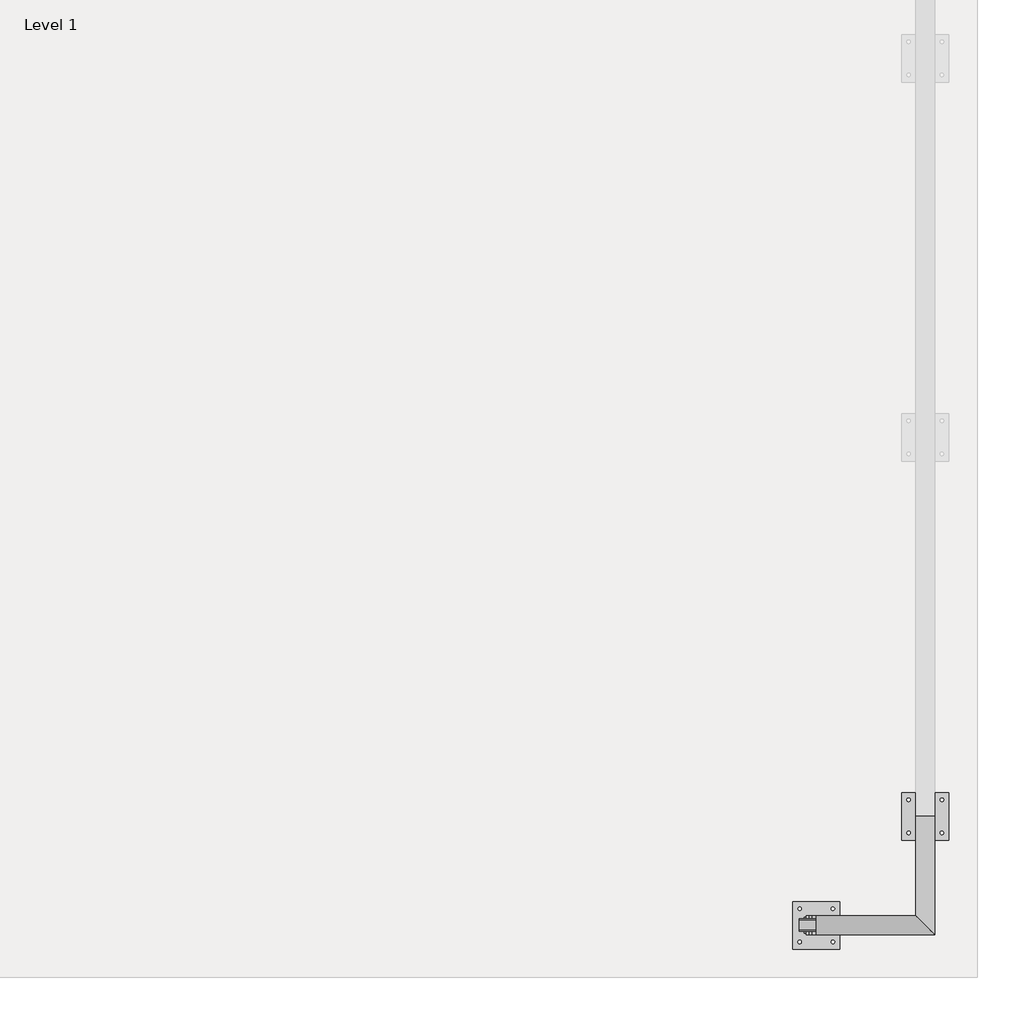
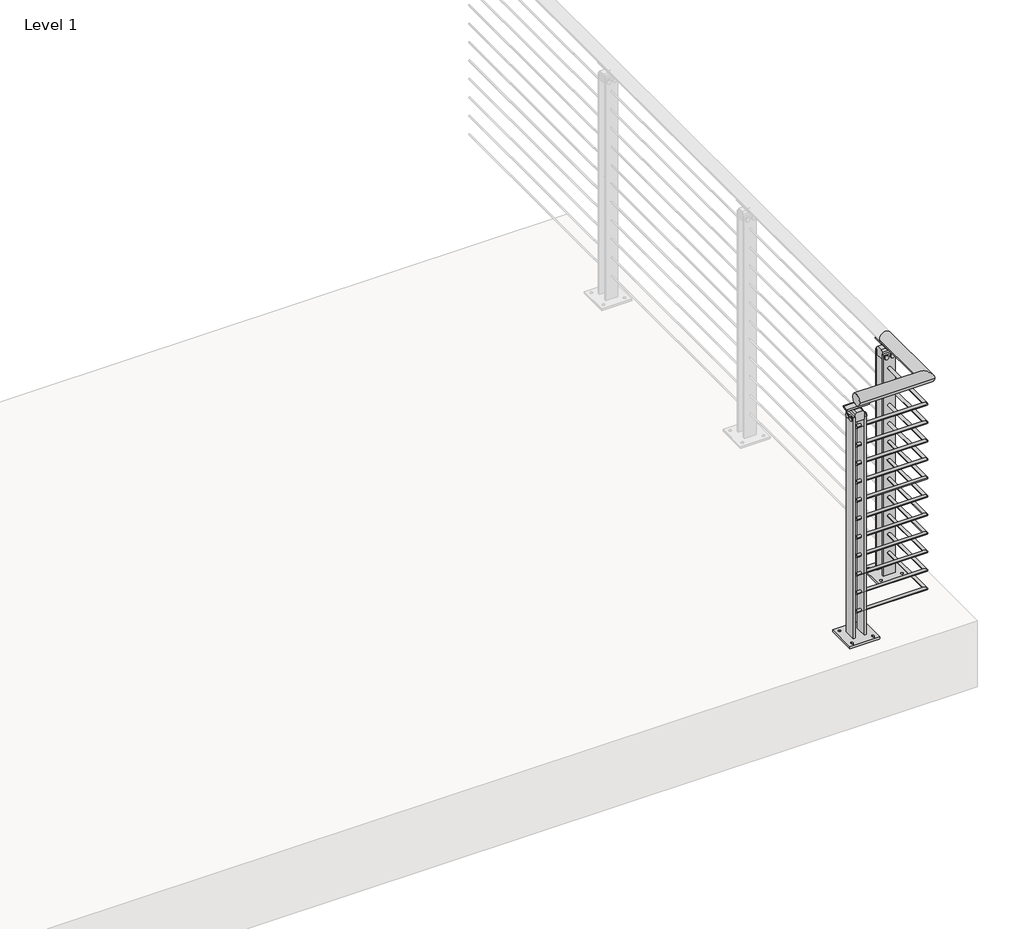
# One storey, part 15 of 36: 1 railing.
"""IFC4 building model written with IfcOpenShell, lengths in millimetres."""

from ifc_helpers import new_model, si_unit, point, frame, frame_2d, origin, origin_with_axes, place, context, project, spatial, polyline, circle_curve, ellipse_curve, trimmed, segment, composite_curve, outline, extrude, element, save
from ifc_brep_helpers import plane_surface, cylinder_surface, revolved_surface, advanced_brep

model = new_model("IFC4")

# Units and contexts
model_context = context("Model", 3, world=origin())
ifc_project = project(units=[si_unit("LENGTHUNIT", "METRE", prefix="MILLI")], contexts=[model_context])

# Site, building, storey
site = spatial("IfcSite", under=ifc_project)
building = spatial("IfcBuilding", under=site)
storey = spatial("IfcBuildingStorey", under=building, Name="Level 1", Elevation=0.0)

# Railing
placement = place(None, origin())
element("IfcRailing", 1, ObjectType="VIVA-BLADE-Cable-Floor Mount-Corner", at=placement, inside=storey, context=model_context, shape_type="SolidModel", body=[
    advanced_brep(
    [(19311.7867188, -57070.1334719, 1054.1), (19311.7867188, -57019.3334719, 1054.1), (19629.2867188, -57070.1334719, 1054.1), (19578.4867188, -57019.3334719, 1054.1), (19629.2867188, -56752.6334719, 1054.1), (19578.4867188, -56752.6334719, 1054.1)],
    [
        (0, 1, circle_curve(frame((19311.7867188, -57044.7334719, 1054.1), z_axis=(-1.0, 0.0, 0.0), x_axis=(0.0, 1.0, 0.0)), 25.4)),
        (1, 0, circle_curve(frame((19311.7867188, -57044.7334719, 1054.1), z_axis=(-1.0, 0.0, 0.0), x_axis=(0.0, 1.0, 0.0)), 25.4)),
        (0, 2),
        (2, 3, ellipse_curve(frame((19603.8867188, -57044.7334719, 1054.1), z_axis=(-0.7071067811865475, -0.7071067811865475, 0.0), x_axis=(-0.7071067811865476, 0.7071067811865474, 0.0)), 35.9210245, 25.4)),
        (3, 1),
        (3, 2, ellipse_curve(frame((19603.8867188, -57044.7334719, 1054.1), z_axis=(-0.7071067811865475, -0.7071067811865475, 0.0), x_axis=(-0.7071067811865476, 0.7071067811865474, 0.0)), 35.9210245, 25.4)),
        (4, 5, circle_curve(frame((19603.8867188, -56752.6334719, 1054.1), z_axis=(0.0, 1.0, 0.0), x_axis=(-1.0, 0.0, 0.0)), 25.4)),
        (5, 4, circle_curve(frame((19603.8867188, -56752.6334719, 1054.1), z_axis=(0.0, 1.0, 0.0), x_axis=(-1.0, 0.0, 0.0)), 25.4)),
        (2, 4),
        (5, 3),
    ],
    [
        plane_surface(frame((19311.7867188, -57044.7334719, 1079.5), z_axis=(-1.0, 0.0, 0.0), x_axis=(0.0, 1.0, 0.0))),
        cylinder_surface(frame((19311.7867188, -57044.7334719, 1054.1), z_axis=(-1.0, 0.0, 0.0), x_axis=(0.0, 1.0, 0.0)), 25.4),
        plane_surface(frame((19603.8867188, -56752.6334719, 1079.5), z_axis=(0.0, 1.0, 0.0), x_axis=(0.0, 0.0, 1.0))),
        cylinder_surface(frame((19603.8867188, -57044.7334719, 1054.1), z_axis=(0.0, -1.0, 0.0), x_axis=(-1.0, 0.0, 0.0)), 25.4),
    ],
    [
        (0, [[1, 2]]),
        (1, [[-1, 3, 4, 5]]),
        (1, [[-2, -5, 6, -3]]),
        (2, [[7, 8]]),
        (3, [[-4, 9, -8, 10]]),
        (3, [[-6, -10, -7, -9]]),
    ],
),
    advanced_brep(
    [(19311.7867188, -57038.3834719, 933.45), (19311.7867188, -57051.0834719, 933.45), (19597.5367188, -57038.3834719, 933.45), (19610.2367188, -57051.0834719, 933.45), (19597.5367188, -56752.6334719, 933.45), (19610.2367188, -56752.6334719, 933.45)],
    [
        (0, 1, circle_curve(frame((19311.7867188, -57044.7334719, 933.45), z_axis=(-1.0, 0.0, 0.0), x_axis=(0.0, -1.0, 0.0)), 6.35)),
        (1, 0, circle_curve(frame((19311.7867188, -57044.7334719, 933.45), z_axis=(-1.0, 0.0, 0.0), x_axis=(0.0, -1.0, 0.0)), 6.35)),
        (0, 2),
        (2, 3, ellipse_curve(frame((19603.8867188, -57044.7334719, 933.45), z_axis=(-0.7071067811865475, -0.7071067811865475, 0.0), x_axis=(-0.7071067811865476, 0.7071067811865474, 0.0)), 8.9802561, 6.35)),
        (3, 1),
        (3, 2, ellipse_curve(frame((19603.8867188, -57044.7334719, 933.45), z_axis=(-0.7071067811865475, -0.7071067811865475, 0.0), x_axis=(-0.7071067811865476, 0.7071067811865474, 0.0)), 8.9802561, 6.35)),
        (4, 5, circle_curve(frame((19603.8867188, -56752.6334719, 933.45), z_axis=(0.0, 1.0, 0.0), x_axis=(1.0, 0.0, 0.0)), 6.35)),
        (5, 4, circle_curve(frame((19603.8867188, -56752.6334719, 933.45), z_axis=(0.0, 1.0, 0.0), x_axis=(1.0, 0.0, 0.0)), 6.35)),
        (2, 4),
        (5, 3),
    ],
    [
        plane_surface(frame((19311.7867188, -57044.7334719, 939.8), z_axis=(-1.0, 0.0, 0.0), x_axis=(0.0, 1.0, 0.0))),
        cylinder_surface(frame((19311.7867188, -57044.7334719, 933.45), z_axis=(-1.0, 0.0, 0.0), x_axis=(0.0, -1.0, 0.0)), 6.35),
        plane_surface(frame((19603.8867188, -56752.6334719, 939.8), z_axis=(0.0, 1.0, 0.0), x_axis=(0.0, 0.0, 1.0))),
        cylinder_surface(frame((19603.8867188, -57044.7334719, 933.45), z_axis=(0.0, -1.0, 0.0), x_axis=(1.0, 0.0, 0.0)), 6.35),
    ],
    [
        (0, [[1, 2]]),
        (1, [[-1, 3, 4, 5]]),
        (1, [[-2, -5, 6, -3]]),
        (2, [[7, 8]]),
        (3, [[-4, 9, -8, 10]]),
        (3, [[-6, -10, -7, -9]]),
    ],
),
    advanced_brep(
    [(19311.7867188, -57038.3834719, 850.9), (19311.7867188, -57051.0834719, 850.9), (19597.5367188, -57038.3834719, 850.9), (19610.2367188, -57051.0834719, 850.9), (19597.5367188, -56752.6334719, 850.9), (19610.2367188, -56752.6334719, 850.9)],
    [
        (0, 1, circle_curve(frame((19311.7867188, -57044.7334719, 850.9), z_axis=(-1.0, 0.0, 0.0), x_axis=(0.0, -1.0, 0.0)), 6.35)),
        (1, 0, circle_curve(frame((19311.7867188, -57044.7334719, 850.9), z_axis=(-1.0, 0.0, 0.0), x_axis=(0.0, -1.0, 0.0)), 6.35)),
        (0, 2),
        (2, 3, ellipse_curve(frame((19603.8867188, -57044.7334719, 850.9), z_axis=(-0.7071067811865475, -0.7071067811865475, 0.0), x_axis=(-0.7071067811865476, 0.7071067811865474, 0.0)), 8.9802561, 6.35)),
        (3, 1),
        (3, 2, ellipse_curve(frame((19603.8867188, -57044.7334719, 850.9), z_axis=(-0.7071067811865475, -0.7071067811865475, 0.0), x_axis=(-0.7071067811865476, 0.7071067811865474, 0.0)), 8.9802561, 6.35)),
        (4, 5, circle_curve(frame((19603.8867188, -56752.6334719, 850.9), z_axis=(0.0, 1.0, 0.0), x_axis=(1.0, 0.0, 0.0)), 6.35)),
        (5, 4, circle_curve(frame((19603.8867188, -56752.6334719, 850.9), z_axis=(0.0, 1.0, 0.0), x_axis=(1.0, 0.0, 0.0)), 6.35)),
        (2, 4),
        (5, 3),
    ],
    [
        plane_surface(frame((19311.7867188, -57044.7334719, 857.25), z_axis=(-1.0, 0.0, 0.0), x_axis=(0.0, 1.0, 0.0))),
        cylinder_surface(frame((19311.7867188, -57044.7334719, 850.9), z_axis=(-1.0, 0.0, 0.0), x_axis=(0.0, -1.0, 0.0)), 6.35),
        plane_surface(frame((19603.8867188, -56752.6334719, 857.25), z_axis=(0.0, 1.0, 0.0), x_axis=(0.0, 0.0, 1.0))),
        cylinder_surface(frame((19603.8867188, -57044.7334719, 850.9), z_axis=(0.0, -1.0, 0.0), x_axis=(1.0, 0.0, 0.0)), 6.35),
    ],
    [
        (0, [[1, 2]]),
        (1, [[-1, 3, 4, 5]]),
        (1, [[-2, -5, 6, -3]]),
        (2, [[7, 8]]),
        (3, [[-4, 9, -8, 10]]),
        (3, [[-6, -10, -7, -9]]),
    ],
),
    advanced_brep(
    [(19311.7867188, -57038.3834719, 768.35), (19311.7867188, -57051.0834719, 768.35), (19597.5367188, -57038.3834719, 768.35), (19610.2367188, -57051.0834719, 768.35), (19597.5367188, -56752.6334719, 768.35), (19610.2367188, -56752.6334719, 768.35)],
    [
        (0, 1, circle_curve(frame((19311.7867188, -57044.7334719, 768.35), z_axis=(-1.0, 0.0, 0.0), x_axis=(0.0, -1.0, 0.0)), 6.35)),
        (1, 0, circle_curve(frame((19311.7867188, -57044.7334719, 768.35), z_axis=(-1.0, 0.0, 0.0), x_axis=(0.0, -1.0, 0.0)), 6.35)),
        (0, 2),
        (2, 3, ellipse_curve(frame((19603.8867188, -57044.7334719, 768.35), z_axis=(-0.7071067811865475, -0.7071067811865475, 0.0), x_axis=(-0.7071067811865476, 0.7071067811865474, 0.0)), 8.9802561, 6.35)),
        (3, 1),
        (3, 2, ellipse_curve(frame((19603.8867188, -57044.7334719, 768.35), z_axis=(-0.7071067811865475, -0.7071067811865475, 0.0), x_axis=(-0.7071067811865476, 0.7071067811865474, 0.0)), 8.9802561, 6.35)),
        (4, 5, circle_curve(frame((19603.8867188, -56752.6334719, 768.35), z_axis=(0.0, 1.0, 0.0), x_axis=(1.0, 0.0, 0.0)), 6.35)),
        (5, 4, circle_curve(frame((19603.8867188, -56752.6334719, 768.35), z_axis=(0.0, 1.0, 0.0), x_axis=(1.0, 0.0, 0.0)), 6.35)),
        (2, 4),
        (5, 3),
    ],
    [
        plane_surface(frame((19311.7867188, -57044.7334719, 774.7), z_axis=(-1.0, 0.0, 0.0), x_axis=(0.0, 1.0, 0.0))),
        cylinder_surface(frame((19311.7867188, -57044.7334719, 768.35), z_axis=(-1.0, 0.0, 0.0), x_axis=(0.0, -1.0, 0.0)), 6.35),
        plane_surface(frame((19603.8867188, -56752.6334719, 774.7), z_axis=(0.0, 1.0, 0.0), x_axis=(0.0, 0.0, 1.0))),
        cylinder_surface(frame((19603.8867188, -57044.7334719, 768.35), z_axis=(0.0, -1.0, 0.0), x_axis=(1.0, 0.0, 0.0)), 6.35),
    ],
    [
        (0, [[1, 2]]),
        (1, [[-1, 3, 4, 5]]),
        (1, [[-2, -5, 6, -3]]),
        (2, [[7, 8]]),
        (3, [[-4, 9, -8, 10]]),
        (3, [[-6, -10, -7, -9]]),
    ],
),
    advanced_brep(
    [(19311.7867188, -57038.3834719, 685.8), (19311.7867188, -57051.0834719, 685.8), (19597.5367188, -57038.3834719, 685.8), (19610.2367188, -57051.0834719, 685.8), (19597.5367188, -56752.6334719, 685.8), (19610.2367188, -56752.6334719, 685.8)],
    [
        (0, 1, circle_curve(frame((19311.7867188, -57044.7334719, 685.8), z_axis=(-1.0, 0.0, 0.0), x_axis=(0.0, -1.0, 0.0)), 6.35)),
        (1, 0, circle_curve(frame((19311.7867188, -57044.7334719, 685.8), z_axis=(-1.0, 0.0, 0.0), x_axis=(0.0, -1.0, 0.0)), 6.35)),
        (0, 2),
        (2, 3, ellipse_curve(frame((19603.8867188, -57044.7334719, 685.8), z_axis=(-0.7071067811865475, -0.7071067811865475, 0.0), x_axis=(-0.7071067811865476, 0.7071067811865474, 0.0)), 8.9802561, 6.35)),
        (3, 1),
        (3, 2, ellipse_curve(frame((19603.8867188, -57044.7334719, 685.8), z_axis=(-0.7071067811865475, -0.7071067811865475, 0.0), x_axis=(-0.7071067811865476, 0.7071067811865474, 0.0)), 8.9802561, 6.35)),
        (4, 5, circle_curve(frame((19603.8867188, -56752.6334719, 685.8), z_axis=(0.0, 1.0, 0.0), x_axis=(1.0, 0.0, 0.0)), 6.35)),
        (5, 4, circle_curve(frame((19603.8867188, -56752.6334719, 685.8), z_axis=(0.0, 1.0, 0.0), x_axis=(1.0, 0.0, 0.0)), 6.35)),
        (2, 4),
        (5, 3),
    ],
    [
        plane_surface(frame((19311.7867188, -57044.7334719, 692.15), z_axis=(-1.0, 0.0, 0.0), x_axis=(0.0, 1.0, 0.0))),
        cylinder_surface(frame((19311.7867188, -57044.7334719, 685.8), z_axis=(-1.0, 0.0, 0.0), x_axis=(0.0, -1.0, 0.0)), 6.35),
        plane_surface(frame((19603.8867188, -56752.6334719, 692.15), z_axis=(0.0, 1.0, 0.0), x_axis=(0.0, 0.0, 1.0))),
        cylinder_surface(frame((19603.8867188, -57044.7334719, 685.8), z_axis=(0.0, -1.0, 0.0), x_axis=(1.0, 0.0, 0.0)), 6.35),
    ],
    [
        (0, [[1, 2]]),
        (1, [[-1, 3, 4, 5]]),
        (1, [[-2, -5, 6, -3]]),
        (2, [[7, 8]]),
        (3, [[-4, 9, -8, 10]]),
        (3, [[-6, -10, -7, -9]]),
    ],
),
    advanced_brep(
    [(19311.7867188, -57038.3834719, 603.25), (19311.7867188, -57051.0834719, 603.25), (19597.5367188, -57038.3834719, 603.25), (19610.2367188, -57051.0834719, 603.25), (19597.5367188, -56752.6334719, 603.25), (19610.2367188, -56752.6334719, 603.25)],
    [
        (0, 1, circle_curve(frame((19311.7867188, -57044.7334719, 603.25), z_axis=(-1.0, 0.0, 0.0), x_axis=(0.0, -1.0, 0.0)), 6.35)),
        (1, 0, circle_curve(frame((19311.7867188, -57044.7334719, 603.25), z_axis=(-1.0, 0.0, 0.0), x_axis=(0.0, -1.0, 0.0)), 6.35)),
        (0, 2),
        (2, 3, ellipse_curve(frame((19603.8867188, -57044.7334719, 603.25), z_axis=(-0.7071067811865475, -0.7071067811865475, 0.0), x_axis=(-0.7071067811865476, 0.7071067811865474, 0.0)), 8.9802561, 6.35)),
        (3, 1),
        (3, 2, ellipse_curve(frame((19603.8867188, -57044.7334719, 603.25), z_axis=(-0.7071067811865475, -0.7071067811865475, 0.0), x_axis=(-0.7071067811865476, 0.7071067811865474, 0.0)), 8.9802561, 6.35)),
        (4, 5, circle_curve(frame((19603.8867188, -56752.6334719, 603.25), z_axis=(0.0, 1.0, 0.0), x_axis=(1.0, 0.0, 0.0)), 6.35)),
        (5, 4, circle_curve(frame((19603.8867188, -56752.6334719, 603.25), z_axis=(0.0, 1.0, 0.0), x_axis=(1.0, 0.0, 0.0)), 6.35)),
        (2, 4),
        (5, 3),
    ],
    [
        plane_surface(frame((19311.7867188, -57044.7334719, 609.6), z_axis=(-1.0, 0.0, 0.0), x_axis=(0.0, 1.0, 0.0))),
        cylinder_surface(frame((19311.7867188, -57044.7334719, 603.25), z_axis=(-1.0, 0.0, 0.0), x_axis=(0.0, -1.0, 0.0)), 6.35),
        plane_surface(frame((19603.8867188, -56752.6334719, 609.6), z_axis=(0.0, 1.0, 0.0), x_axis=(0.0, 0.0, 1.0))),
        cylinder_surface(frame((19603.8867188, -57044.7334719, 603.25), z_axis=(0.0, -1.0, 0.0), x_axis=(1.0, 0.0, 0.0)), 6.35),
    ],
    [
        (0, [[1, 2]]),
        (1, [[-1, 3, 4, 5]]),
        (1, [[-2, -5, 6, -3]]),
        (2, [[7, 8]]),
        (3, [[-4, 9, -8, 10]]),
        (3, [[-6, -10, -7, -9]]),
    ],
),
    advanced_brep(
    [(19311.7867188, -57038.3834719, 520.7), (19311.7867188, -57051.0834719, 520.7), (19597.5367188, -57038.3834719, 520.7), (19610.2367188, -57051.0834719, 520.7), (19597.5367188, -56752.6334719, 520.7), (19610.2367188, -56752.6334719, 520.7)],
    [
        (0, 1, circle_curve(frame((19311.7867188, -57044.7334719, 520.7), z_axis=(-1.0, 0.0, 0.0), x_axis=(0.0, -1.0, 0.0)), 6.35)),
        (1, 0, circle_curve(frame((19311.7867188, -57044.7334719, 520.7), z_axis=(-1.0, 0.0, 0.0), x_axis=(0.0, -1.0, 0.0)), 6.35)),
        (0, 2),
        (2, 3, ellipse_curve(frame((19603.8867188, -57044.7334719, 520.7), z_axis=(-0.7071067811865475, -0.7071067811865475, 0.0), x_axis=(-0.7071067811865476, 0.7071067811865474, 0.0)), 8.9802561, 6.35)),
        (3, 1),
        (3, 2, ellipse_curve(frame((19603.8867188, -57044.7334719, 520.7), z_axis=(-0.7071067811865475, -0.7071067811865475, 0.0), x_axis=(-0.7071067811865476, 0.7071067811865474, 0.0)), 8.9802561, 6.35)),
        (4, 5, circle_curve(frame((19603.8867188, -56752.6334719, 520.7), z_axis=(0.0, 1.0, 0.0), x_axis=(1.0, 0.0, 0.0)), 6.35)),
        (5, 4, circle_curve(frame((19603.8867188, -56752.6334719, 520.7), z_axis=(0.0, 1.0, 0.0), x_axis=(1.0, 0.0, 0.0)), 6.35)),
        (2, 4),
        (5, 3),
    ],
    [
        plane_surface(frame((19311.7867188, -57044.7334719, 527.05), z_axis=(-1.0, 0.0, 0.0), x_axis=(0.0, 1.0, 0.0))),
        cylinder_surface(frame((19311.7867188, -57044.7334719, 520.7), z_axis=(-1.0, 0.0, 0.0), x_axis=(0.0, -1.0, 0.0)), 6.35),
        plane_surface(frame((19603.8867188, -56752.6334719, 527.05), z_axis=(0.0, 1.0, 0.0), x_axis=(0.0, 0.0, 1.0))),
        cylinder_surface(frame((19603.8867188, -57044.7334719, 520.7), z_axis=(0.0, -1.0, 0.0), x_axis=(1.0, 0.0, 0.0)), 6.35),
    ],
    [
        (0, [[1, 2]]),
        (1, [[-1, 3, 4, 5]]),
        (1, [[-2, -5, 6, -3]]),
        (2, [[7, 8]]),
        (3, [[-4, 9, -8, 10]]),
        (3, [[-6, -10, -7, -9]]),
    ],
),
    advanced_brep(
    [(19311.7867188, -57038.3834719, 438.15), (19311.7867188, -57051.0834719, 438.15), (19597.5367188, -57038.3834719, 438.15), (19610.2367188, -57051.0834719, 438.15), (19597.5367188, -56752.6334719, 438.15), (19610.2367188, -56752.6334719, 438.15)],
    [
        (0, 1, circle_curve(frame((19311.7867188, -57044.7334719, 438.15), z_axis=(-1.0, 0.0, 0.0), x_axis=(0.0, -1.0, 0.0)), 6.35)),
        (1, 0, circle_curve(frame((19311.7867188, -57044.7334719, 438.15), z_axis=(-1.0, 0.0, 0.0), x_axis=(0.0, -1.0, 0.0)), 6.35)),
        (0, 2),
        (2, 3, ellipse_curve(frame((19603.8867188, -57044.7334719, 438.15), z_axis=(-0.7071067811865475, -0.7071067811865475, 0.0), x_axis=(-0.7071067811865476, 0.7071067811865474, 0.0)), 8.9802561, 6.35)),
        (3, 1),
        (3, 2, ellipse_curve(frame((19603.8867188, -57044.7334719, 438.15), z_axis=(-0.7071067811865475, -0.7071067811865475, 0.0), x_axis=(-0.7071067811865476, 0.7071067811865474, 0.0)), 8.9802561, 6.35)),
        (4, 5, circle_curve(frame((19603.8867188, -56752.6334719, 438.15), z_axis=(0.0, 1.0, 0.0), x_axis=(1.0, 0.0, 0.0)), 6.35)),
        (5, 4, circle_curve(frame((19603.8867188, -56752.6334719, 438.15), z_axis=(0.0, 1.0, 0.0), x_axis=(1.0, 0.0, 0.0)), 6.35)),
        (2, 4),
        (5, 3),
    ],
    [
        plane_surface(frame((19311.7867188, -57044.7334719, 444.5), z_axis=(-1.0, 0.0, 0.0), x_axis=(0.0, 1.0, 0.0))),
        cylinder_surface(frame((19311.7867188, -57044.7334719, 438.15), z_axis=(-1.0, 0.0, 0.0), x_axis=(0.0, -1.0, 0.0)), 6.35),
        plane_surface(frame((19603.8867188, -56752.6334719, 444.5), z_axis=(0.0, 1.0, 0.0), x_axis=(0.0, 0.0, 1.0))),
        cylinder_surface(frame((19603.8867188, -57044.7334719, 438.15), z_axis=(0.0, -1.0, 0.0), x_axis=(1.0, 0.0, 0.0)), 6.35),
    ],
    [
        (0, [[1, 2]]),
        (1, [[-1, 3, 4, 5]]),
        (1, [[-2, -5, 6, -3]]),
        (2, [[7, 8]]),
        (3, [[-4, 9, -8, 10]]),
        (3, [[-6, -10, -7, -9]]),
    ],
),
    advanced_brep(
    [(19311.7867188, -57038.3834719, 355.6), (19311.7867188, -57051.0834719, 355.6), (19597.5367188, -57038.3834719, 355.6), (19610.2367188, -57051.0834719, 355.6), (19597.5367188, -56752.6334719, 355.6), (19610.2367188, -56752.6334719, 355.6)],
    [
        (0, 1, circle_curve(frame((19311.7867188, -57044.7334719, 355.6), z_axis=(-1.0, 0.0, 0.0), x_axis=(0.0, -1.0, 0.0)), 6.35)),
        (1, 0, circle_curve(frame((19311.7867188, -57044.7334719, 355.6), z_axis=(-1.0, 0.0, 0.0), x_axis=(0.0, -1.0, 0.0)), 6.35)),
        (0, 2),
        (2, 3, ellipse_curve(frame((19603.8867188, -57044.7334719, 355.6), z_axis=(-0.7071067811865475, -0.7071067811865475, 0.0), x_axis=(-0.7071067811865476, 0.7071067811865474, 0.0)), 8.9802561, 6.35)),
        (3, 1),
        (3, 2, ellipse_curve(frame((19603.8867188, -57044.7334719, 355.6), z_axis=(-0.7071067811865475, -0.7071067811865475, 0.0), x_axis=(-0.7071067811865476, 0.7071067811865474, 0.0)), 8.9802561, 6.35)),
        (4, 5, circle_curve(frame((19603.8867188, -56752.6334719, 355.6), z_axis=(0.0, 1.0, 0.0), x_axis=(1.0, 0.0, 0.0)), 6.35)),
        (5, 4, circle_curve(frame((19603.8867188, -56752.6334719, 355.6), z_axis=(0.0, 1.0, 0.0), x_axis=(1.0, 0.0, 0.0)), 6.35)),
        (2, 4),
        (5, 3),
    ],
    [
        plane_surface(frame((19311.7867188, -57044.7334719, 361.95), z_axis=(-1.0, 0.0, 0.0), x_axis=(0.0, 1.0, 0.0))),
        cylinder_surface(frame((19311.7867188, -57044.7334719, 355.6), z_axis=(-1.0, 0.0, 0.0), x_axis=(0.0, -1.0, 0.0)), 6.35),
        plane_surface(frame((19603.8867188, -56752.6334719, 361.95), z_axis=(0.0, 1.0, 0.0), x_axis=(0.0, 0.0, 1.0))),
        cylinder_surface(frame((19603.8867188, -57044.7334719, 355.6), z_axis=(0.0, -1.0, 0.0), x_axis=(1.0, 0.0, 0.0)), 6.35),
    ],
    [
        (0, [[1, 2]]),
        (1, [[-1, 3, 4, 5]]),
        (1, [[-2, -5, 6, -3]]),
        (2, [[7, 8]]),
        (3, [[-4, 9, -8, 10]]),
        (3, [[-6, -10, -7, -9]]),
    ],
),
    advanced_brep(
    [(19311.7867188, -57038.3834719, 273.05), (19311.7867188, -57051.0834719, 273.05), (19597.5367188, -57038.3834719, 273.05), (19610.2367188, -57051.0834719, 273.05), (19597.5367188, -56752.6334719, 273.05), (19610.2367188, -56752.6334719, 273.05)],
    [
        (0, 1, circle_curve(frame((19311.7867188, -57044.7334719, 273.05), z_axis=(-1.0, 0.0, 0.0), x_axis=(0.0, -1.0, 0.0)), 6.35)),
        (1, 0, circle_curve(frame((19311.7867188, -57044.7334719, 273.05), z_axis=(-1.0, 0.0, 0.0), x_axis=(0.0, -1.0, 0.0)), 6.35)),
        (0, 2),
        (2, 3, ellipse_curve(frame((19603.8867188, -57044.7334719, 273.05), z_axis=(-0.7071067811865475, -0.7071067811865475, 0.0), x_axis=(-0.7071067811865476, 0.7071067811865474, 0.0)), 8.9802561, 6.35)),
        (3, 1),
        (3, 2, ellipse_curve(frame((19603.8867188, -57044.7334719, 273.05), z_axis=(-0.7071067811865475, -0.7071067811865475, 0.0), x_axis=(-0.7071067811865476, 0.7071067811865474, 0.0)), 8.9802561, 6.35)),
        (4, 5, circle_curve(frame((19603.8867188, -56752.6334719, 273.05), z_axis=(0.0, 1.0, 0.0), x_axis=(1.0, 0.0, 0.0)), 6.35)),
        (5, 4, circle_curve(frame((19603.8867188, -56752.6334719, 273.05), z_axis=(0.0, 1.0, 0.0), x_axis=(1.0, 0.0, 0.0)), 6.35)),
        (2, 4),
        (5, 3),
    ],
    [
        plane_surface(frame((19311.7867188, -57044.7334719, 279.4), z_axis=(-1.0, 0.0, 0.0), x_axis=(0.0, 1.0, 0.0))),
        cylinder_surface(frame((19311.7867188, -57044.7334719, 273.05), z_axis=(-1.0, 0.0, 0.0), x_axis=(0.0, -1.0, 0.0)), 6.35),
        plane_surface(frame((19603.8867188, -56752.6334719, 279.4), z_axis=(0.0, 1.0, 0.0), x_axis=(0.0, 0.0, 1.0))),
        cylinder_surface(frame((19603.8867188, -57044.7334719, 273.05), z_axis=(0.0, -1.0, 0.0), x_axis=(1.0, 0.0, 0.0)), 6.35),
    ],
    [
        (0, [[1, 2]]),
        (1, [[-1, 3, 4, 5]]),
        (1, [[-2, -5, 6, -3]]),
        (2, [[7, 8]]),
        (3, [[-4, 9, -8, 10]]),
        (3, [[-6, -10, -7, -9]]),
    ],
),
    advanced_brep(
    [(19311.7867188, -57038.3834719, 190.5), (19311.7867188, -57051.0834719, 190.5), (19597.5367188, -57038.3834719, 190.5), (19610.2367188, -57051.0834719, 190.5), (19597.5367188, -56752.6334719, 190.5), (19610.2367188, -56752.6334719, 190.5)],
    [
        (0, 1, circle_curve(frame((19311.7867188, -57044.7334719, 190.5), z_axis=(-1.0, 0.0, 0.0), x_axis=(0.0, -1.0, 0.0)), 6.35)),
        (1, 0, circle_curve(frame((19311.7867188, -57044.7334719, 190.5), z_axis=(-1.0, 0.0, 0.0), x_axis=(0.0, -1.0, 0.0)), 6.35)),
        (0, 2),
        (2, 3, ellipse_curve(frame((19603.8867188, -57044.7334719, 190.5), z_axis=(-0.7071067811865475, -0.7071067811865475, 0.0), x_axis=(-0.7071067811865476, 0.7071067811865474, 0.0)), 8.9802561, 6.35)),
        (3, 1),
        (3, 2, ellipse_curve(frame((19603.8867188, -57044.7334719, 190.5), z_axis=(-0.7071067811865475, -0.7071067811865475, 0.0), x_axis=(-0.7071067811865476, 0.7071067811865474, 0.0)), 8.9802561, 6.35)),
        (4, 5, circle_curve(frame((19603.8867188, -56752.6334719, 190.5), z_axis=(0.0, 1.0, 0.0), x_axis=(1.0, 0.0, 0.0)), 6.35)),
        (5, 4, circle_curve(frame((19603.8867188, -56752.6334719, 190.5), z_axis=(0.0, 1.0, 0.0), x_axis=(1.0, 0.0, 0.0)), 6.35)),
        (2, 4),
        (5, 3),
    ],
    [
        plane_surface(frame((19311.7867188, -57044.7334719, 196.85), z_axis=(-1.0, 0.0, 0.0), x_axis=(0.0, 1.0, 0.0))),
        cylinder_surface(frame((19311.7867188, -57044.7334719, 190.5), z_axis=(-1.0, 0.0, 0.0), x_axis=(0.0, -1.0, 0.0)), 6.35),
        plane_surface(frame((19603.8867188, -56752.6334719, 196.85), z_axis=(0.0, 1.0, 0.0), x_axis=(0.0, 0.0, 1.0))),
        cylinder_surface(frame((19603.8867188, -57044.7334719, 190.5), z_axis=(0.0, -1.0, 0.0), x_axis=(1.0, 0.0, 0.0)), 6.35),
    ],
    [
        (0, [[1, 2]]),
        (1, [[-1, 3, 4, 5]]),
        (1, [[-2, -5, 6, -3]]),
        (2, [[7, 8]]),
        (3, [[-4, 9, -8, 10]]),
        (3, [[-6, -10, -7, -9]]),
    ],
),
    advanced_brep(
    [(19311.7867188, -57038.3834719, 107.95), (19311.7867188, -57051.0834719, 107.95), (19597.5367188, -57038.3834719, 107.95), (19610.2367188, -57051.0834719, 107.95), (19597.5367188, -56752.6334719, 107.95), (19610.2367188, -56752.6334719, 107.95)],
    [
        (0, 1, circle_curve(frame((19311.7867188, -57044.7334719, 107.95), z_axis=(-1.0, 0.0, 0.0), x_axis=(0.0, -1.0, 0.0)), 6.35)),
        (1, 0, circle_curve(frame((19311.7867188, -57044.7334719, 107.95), z_axis=(-1.0, 0.0, 0.0), x_axis=(0.0, -1.0, 0.0)), 6.35)),
        (0, 2),
        (2, 3, ellipse_curve(frame((19603.8867188, -57044.7334719, 107.95), z_axis=(-0.7071067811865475, -0.7071067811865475, 0.0), x_axis=(-0.7071067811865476, 0.7071067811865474, 0.0)), 8.9802561, 6.35)),
        (3, 1),
        (3, 2, ellipse_curve(frame((19603.8867188, -57044.7334719, 107.95), z_axis=(-0.7071067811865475, -0.7071067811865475, 0.0), x_axis=(-0.7071067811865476, 0.7071067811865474, 0.0)), 8.9802561, 6.35)),
        (4, 5, circle_curve(frame((19603.8867188, -56752.6334719, 107.95), z_axis=(0.0, 1.0, 0.0), x_axis=(1.0, 0.0, 0.0)), 6.35)),
        (5, 4, circle_curve(frame((19603.8867188, -56752.6334719, 107.95), z_axis=(0.0, 1.0, 0.0), x_axis=(1.0, 0.0, 0.0)), 6.35)),
        (2, 4),
        (5, 3),
    ],
    [
        plane_surface(frame((19311.7867188, -57044.7334719, 114.3), z_axis=(-1.0, 0.0, 0.0), x_axis=(0.0, 1.0, 0.0))),
        cylinder_surface(frame((19311.7867188, -57044.7334719, 107.95), z_axis=(-1.0, 0.0, 0.0), x_axis=(0.0, -1.0, 0.0)), 6.35),
        plane_surface(frame((19603.8867188, -56752.6334719, 114.3), z_axis=(0.0, 1.0, 0.0), x_axis=(0.0, 0.0, 1.0))),
        cylinder_surface(frame((19603.8867188, -57044.7334719, 107.95), z_axis=(0.0, -1.0, 0.0), x_axis=(1.0, 0.0, 0.0)), 6.35),
    ],
    [
        (0, [[1, 2]]),
        (1, [[-1, 3, 4, 5]]),
        (1, [[-2, -5, 6, -3]]),
        (2, [[7, 8]]),
        (3, [[-4, 9, -8, 10]]),
        (3, [[-6, -10, -7, -9]]),
    ],
),
    advanced_brep(
    [(19591.1265951, -56707.3960719, 1032.0967655), (19615.9986597, -56707.3960719, 1031.9535285), (19618.80759, -56707.3960719, 1027.1267745), (19587.2906977, -56707.3960719, 1027.707533), (19591.1265951, -56797.8708719, 1032.0967655), (19587.2906977, -56797.8708719, 1027.707533), (19618.9213834, -56797.8708719, 1027.1893964), (19616.0856318, -56797.8708719, 1032.0018447)],
    [
        (0, 1, circle_curve(frame((19603.690398, -56707.3960719, 1054.2115898), z_axis=(0.0, -1.0, 0.0), x_axis=(-1.0, 0.0, 0.0)), 25.4345159)),
        (1, 2, circle_curve(frame((19617.3302849, -56707.3960719, 1029.4993599), z_axis=(0.0, 1.0, 0.0), x_axis=(-1.0, 0.0, 0.0)), 2.7949225)),
        (2, 3, circle_curve(frame((19603.5569349, -56707.3960719, 1054.9742164), z_axis=(0.0, 1.0, 0.0), x_axis=(-1.0, 0.0, 0.0)), 31.75)),
        (3, 0, circle_curve(frame((19589.5790375, -56707.3960719, 1029.5784521), z_axis=(0.0, 1.0, 0.0), x_axis=(-1.0, 0.0, 0.0)), 2.9558141)),
        (4, 5, circle_curve(frame((19589.5790375, -56797.8708719, 1029.5784521), z_axis=(0.0, -1.0, 0.0), x_axis=(-1.0, 0.0, 0.0)), 2.9558141)),
        (5, 6, circle_curve(frame((19603.5569349, -56797.8708719, 1054.9742164), z_axis=(0.0, -1.0, 0.0), x_axis=(-1.0, 0.0, 0.0)), 31.75)),
        (6, 7, circle_curve(frame((19617.3302849, -56797.8708719, 1029.4993599), z_axis=(0.0, -1.0, 0.0), x_axis=(-1.0, 0.0, 0.0)), 2.7949225)),
        (7, 4, circle_curve(frame((19603.690398, -56797.8708719, 1054.2115898), z_axis=(0.0, 1.0, 0.0), x_axis=(-1.0, 0.0, 0.0)), 25.4345159)),
        (0, 4),
        (7, 1),
        (6, 2),
        (5, 3),
    ],
    [
        plane_surface(frame((19578.2558822, -56707.3960719, 1054.2115898), z_axis=(0.0, 1.0, 0.0), x_axis=(0.0, 0.0, -1.0))),
        plane_surface(frame((19578.2558822, -56797.8708719, 1054.2115898), z_axis=(0.0, -1.0, 0.0), x_axis=(0.0, 0.0, 1.0))),
        revolved_surface(polyline([(19578.2558821, -56797.8708719, 1054.2115898), (19578.2558821, -56707.3960719, 1054.2115898)]), (19603.690398, -56797.8708719, 1054.2115898), (0.0, -1.0, 0.0)),
        cylinder_surface(frame((19617.3302849, -56797.8708719, 1029.4993599), z_axis=(0.0, 1.0, 0.0), x_axis=(-1.0, 0.0, 0.0)), 2.7949225),
        cylinder_surface(frame((19603.5569349, -56797.8708719, 1054.9742164), z_axis=(0.0, 1.0, 0.0), x_axis=(-1.0, 0.0, 0.0)), 31.75),
        cylinder_surface(frame((19589.5790375, -56797.8708719, 1029.5784521), z_axis=(0.0, 1.0, 0.0), x_axis=(-1.0, 0.0, 0.0)), 2.9558141),
    ],
    [
        (0, [[1, 2, 3, 4]]),
        (1, [[5, 6, 7, 8]]),
        (2, [[-1, 9, -8, 10]]),
        (3, [[-2, -10, -7, 11]]),
        (4, [[-3, -11, -6, 12]]),
        (5, [[-4, -12, -5, -9]]),
    ],
),
    advanced_brep(
    [(19601.3467188, -56739.9334719, 1014.4125), (19601.3467188, -56765.3334719, 1014.4125), (19601.3467188, -56779.7013867, 1028.7804149), (19601.3467188, -56725.565557, 1028.7804149), (19606.4267188, -56739.9334719, 1014.4125), (19606.4267188, -56725.565557, 1028.7804149), (19606.4267188, -56779.7013867, 1028.7804149), (19606.4267188, -56765.3334719, 1014.4125)],
    [
        (0, 1),
        (1, 2, circle_curve(frame((19601.3467188, -56779.7013867, 1014.4125), z_axis=(1.0, 0.0, 0.0), x_axis=(0.0, -1.0, 0.0)), 14.3679149)),
        (2, 3),
        (3, 0, circle_curve(frame((19601.3467188, -56725.565557, 1014.4125), z_axis=(1.0, 0.0, 0.0), x_axis=(0.0, -1.0, 0.0)), 14.3679149)),
        (4, 5, circle_curve(frame((19606.4267188, -56725.565557, 1014.4125), z_axis=(-1.0, 0.0, 0.0), x_axis=(0.0, -1.0, 0.0)), 14.3679149)),
        (5, 6),
        (6, 7, circle_curve(frame((19606.4267188, -56779.7013867, 1014.4125), z_axis=(-1.0, 0.0, 0.0), x_axis=(0.0, -1.0, 0.0)), 14.3679149)),
        (7, 4),
        (0, 4),
        (7, 1),
        (6, 2),
        (5, 3),
    ],
    [
        plane_surface(frame((19601.3467188, -56765.3334719, 1014.4125), z_axis=(-1.0, 0.0, 0.0), x_axis=(0.0, -1.0, 0.0))),
        plane_surface(frame((19606.4267188, -56765.3334719, 1014.4125), z_axis=(1.0, 0.0, 0.0), x_axis=(0.0, 1.0, 0.0))),
        plane_surface(frame((19601.3467188, -56739.9334719, 1014.4125), z_axis=(0.0, 0.0, -1.0), x_axis=(1.0, 0.0, 0.0))),
        revolved_surface(polyline([(19606.4267188, -56794.0693016, 1014.4125), (19601.3467188, -56794.0693016, 1014.4125)]), (19606.4267188, -56779.7013867, 1014.4125), (1.0, 0.0, 0.0)),
        plane_surface(frame((19601.3467188, -56779.7013867, 1028.7804149), z_axis=(0.0, 0.0, 1.0), x_axis=(1.0, 0.0, 0.0))),
        revolved_surface(polyline([(19606.4267188, -56739.9334719, 1014.4125), (19601.3467188, -56739.9334719, 1014.4125)]), (19606.4267188, -56725.565557, 1014.4125), (1.0, 0.0, 0.0)),
    ],
    [
        (0, [[1, 2, 3, 4]]),
        (1, [[5, 6, 7, 8]]),
        (2, [[-1, 9, -8, 10]]),
        (3, [[-2, -10, -7, 11]]),
        (4, [[-3, -11, -6, 12]]),
        (5, [[-4, -12, -5, -9]]),
    ],
),
    extrude(outline(polyline([(19667.3855247, -56689.1454087), (19667.3855247, -56816.1454087), (19540.3879128, -56816.1454087), (19540.3879128, -56689.1454087), (19667.3855247, -56689.1454087)]), holes=[composite_curve([segment(trimmed(circle_curve(frame_2d((19648.3355247, -56797.0954087)), 4.7625), [point((19653.0980247, -56797.0954087))], [point((19643.5730247, -56797.0954087))], True, "CARTESIAN"), True, "CONTINUOUS"), segment(trimmed(circle_curve(frame_2d((19648.3355247, -56797.0954087)), 4.7625), [point((19643.5730247, -56797.0954087))], [point((19653.0980247, -56797.0954087))], True, "CARTESIAN"), True, "CONTINUOUS")], self_intersect=False), composite_curve([segment(trimmed(circle_curve(frame_2d((19559.4379128, -56797.0954087)), 4.7625), [point((19564.2004128, -56797.0954087))], [point((19554.6754128, -56797.0954087))], True, "CARTESIAN"), True, "CONTINUOUS"), segment(trimmed(circle_curve(frame_2d((19559.4379128, -56797.0954087)), 4.7625), [point((19554.6754128, -56797.0954087))], [point((19564.2004128, -56797.0954087))], True, "CARTESIAN"), True, "CONTINUOUS")], self_intersect=False), composite_curve([segment(trimmed(circle_curve(frame_2d((19559.4379128, -56708.1954087)), 4.7625), [point((19564.2004128, -56708.1954087))], [point((19554.6754128, -56708.1954087))], True, "CARTESIAN"), True, "CONTINUOUS"), segment(trimmed(circle_curve(frame_2d((19559.4379128, -56708.1954087)), 4.7625), [point((19554.6754128, -56708.1954087))], [point((19564.2004128, -56708.1954087))], True, "CARTESIAN"), True, "CONTINUOUS")], self_intersect=False), composite_curve([segment(trimmed(circle_curve(frame_2d((19648.3355247, -56708.1954087)), 4.7625), [point((19653.0980247, -56708.1954087))], [point((19643.5730247, -56708.1954087))], True, "CARTESIAN"), True, "CONTINUOUS"), segment(trimmed(circle_curve(frame_2d((19648.3355247, -56708.1954087)), 4.7625), [point((19643.5730247, -56708.1954087))], [point((19653.0980247, -56708.1954087))], True, "CARTESIAN"), True, "CONTINUOUS")], self_intersect=False)]), origin_with_axes(), (0.0, 0.0, 1.0), 9.525),
    extrude(outline(polyline([(19578.4869221, -56779.7083075), (19578.4869221, -56771.6834719), (19629.2892467, -56771.6834719), (19629.2892467, -56779.7083075), (19578.4869221, -56779.7083075)])), origin_with_axes(), (0.0, 0.0, 1.0), 996.95),
    extrude(outline(composite_curve([segment(trimmed(circle_curve(frame_2d((986.0416929, 19616.5891957)), 8.89), [point((986.0416929, 19625.4791957))], [point((986.0416929, 19607.6991957))], False, "CARTESIAN"), True, "CONTINUOUS"), segment(trimmed(circle_curve(frame_2d((986.0416929, 19616.5891957)), 8.89), [point((986.0416929, 19607.6991957))], [point((986.0416929, 19625.4791957))], False, "CARTESIAN"), True, "CONTINUOUS")], self_intersect=False)), frame((0.0, -56784.3834719, 0.0), z_axis=(0.0, 1.0, 0.0), x_axis=(0.0, 0.0, 1.0)), (0.0, 0.0, 1.0), 63.4880631),
    extrude(outline(composite_curve([segment(trimmed(circle_curve(frame_2d((986.0416929, 19591.1892977)), 8.89), [point((986.0416929, 19600.0792977))], [point((986.0416929, 19582.2992977))], False, "CARTESIAN"), True, "CONTINUOUS"), segment(trimmed(circle_curve(frame_2d((986.0416929, 19591.1892977)), 8.89), [point((986.0416929, 19582.2992977))], [point((986.0416929, 19600.0792977))], False, "CARTESIAN"), True, "CONTINUOUS")], self_intersect=False)), frame((0.0, -56784.3834719, 0.0), z_axis=(0.0, 1.0, 0.0), x_axis=(0.0, 0.0, 1.0)), (0.0, 0.0, 1.0), 63.4880631),
    extrude(outline(polyline([(-56771.6834719, 974.7123), (-56771.6834719, 1008.0625), (-56765.3334719, 1014.4125), (-56739.9334719, 1014.4125), (-56733.5834719, 1008.0625), (-56733.5834719, 974.7123), (-56771.6834719, 974.7123)])), frame((19578.4867188, 0.0, 0.0), z_axis=(1.0, 0.0, 0.0), x_axis=(0.0, 1.0, 0.0)), (0.0, 0.0, 1.0), 50.8025279),
    extrude(outline(polyline([(19578.4869221, -56733.5835099), (19578.4869221, -56725.5825099), (19629.2892467, -56725.5825099), (19629.2892467, -56733.5835099), (19578.4869221, -56733.5835099)])), origin_with_axes(), (0.0, 0.0, 1.0), 996.95),
    advanced_brep(
    [(19357.0241188, -57031.9733482, 1032.0967655), (19357.0241188, -57056.8454127, 1031.9535285), (19357.0241188, -57059.6543431, 1027.1267745), (19357.0241188, -57028.1374508, 1027.707533), (19266.5493188, -57031.9733482, 1032.0967655), (19266.5493188, -57028.1374508, 1027.707533), (19266.5493188, -57059.7681364, 1027.1893964), (19266.5493188, -57056.9323849, 1032.0018447)],
    [
        (0, 1, circle_curve(frame((19357.0241188, -57044.5371511, 1054.2115898), z_axis=(-1.0, 0.0, 0.0), x_axis=(0.0, 1.0, 0.0)), 25.4345159)),
        (1, 2, circle_curve(frame((19357.0241188, -57058.177038, 1029.4993599), z_axis=(1.0, 0.0, 0.0), x_axis=(0.0, 1.0, 0.0)), 2.7949225)),
        (2, 3, circle_curve(frame((19357.0241188, -57044.403688, 1054.9742164), z_axis=(1.0, 0.0, 0.0), x_axis=(0.0, 1.0, 0.0)), 31.75)),
        (3, 0, circle_curve(frame((19357.0241188, -57030.4257905, 1029.5784521), z_axis=(1.0, 0.0, 0.0), x_axis=(0.0, 1.0, 0.0)), 2.9558141)),
        (4, 5, circle_curve(frame((19266.5493188, -57030.4257905, 1029.5784521), z_axis=(-1.0, 0.0, 0.0), x_axis=(0.0, 1.0, 0.0)), 2.9558141)),
        (5, 6, circle_curve(frame((19266.5493188, -57044.403688, 1054.9742164), z_axis=(-1.0, 0.0, 0.0), x_axis=(0.0, 1.0, 0.0)), 31.75)),
        (6, 7, circle_curve(frame((19266.5493188, -57058.177038, 1029.4993599), z_axis=(-1.0, 0.0, 0.0), x_axis=(0.0, 1.0, 0.0)), 2.7949225)),
        (7, 4, circle_curve(frame((19266.5493188, -57044.5371511, 1054.2115898), z_axis=(1.0, 0.0, 0.0), x_axis=(0.0, 1.0, 0.0)), 25.4345159)),
        (0, 4),
        (7, 1),
        (6, 2),
        (5, 3),
    ],
    [
        plane_surface(frame((19357.0241188, -57019.1026353, 1054.2115898), z_axis=(1.0, 0.0, 0.0), x_axis=(0.0, 0.0, -1.0))),
        plane_surface(frame((19266.5493188, -57019.1026353, 1054.2115898), z_axis=(-1.0, 0.0, 0.0), x_axis=(0.0, 0.0, 1.0))),
        revolved_surface(polyline([(19266.5493188, -57019.1026352, 1054.2115898), (19357.0241188, -57019.1026352, 1054.2115898)]), (19266.5493188, -57044.5371511, 1054.2115898), (-1.0, 0.0, 0.0)),
        cylinder_surface(frame((19266.5493188, -57058.177038, 1029.4993599), z_axis=(1.0, 0.0, 0.0), x_axis=(0.0, 1.0, 0.0)), 2.7949225),
        cylinder_surface(frame((19266.5493188, -57044.403688, 1054.9742164), z_axis=(1.0, 0.0, 0.0), x_axis=(0.0, 1.0, 0.0)), 31.75),
        cylinder_surface(frame((19266.5493188, -57030.4257905, 1029.5784521), z_axis=(1.0, 0.0, 0.0), x_axis=(0.0, 1.0, 0.0)), 2.9558141),
    ],
    [
        (0, [[1, 2, 3, 4]]),
        (1, [[5, 6, 7, 8]]),
        (2, [[-1, 9, -8, 10]]),
        (3, [[-2, -10, -7, 11]]),
        (4, [[-3, -11, -6, 12]]),
        (5, [[-4, -12, -5, -9]]),
    ],
),
    advanced_brep(
    [(19324.4867188, -57042.1934719, 1014.4125), (19299.0867188, -57042.1934719, 1014.4125), (19284.7188039, -57042.1934719, 1028.7804149), (19338.8546336, -57042.1934719, 1028.7804149), (19324.4867188, -57047.2734719, 1014.4125), (19338.8546336, -57047.2734719, 1028.7804149), (19284.7188039, -57047.2734719, 1028.7804149), (19299.0867188, -57047.2734719, 1014.4125)],
    [
        (0, 1),
        (1, 2, circle_curve(frame((19284.7188039, -57042.1934719, 1014.4125), z_axis=(0.0, -1.0, 0.0), x_axis=(-1.0, 0.0, 0.0)), 14.3679149)),
        (2, 3),
        (3, 0, circle_curve(frame((19338.8546336, -57042.1934719, 1014.4125), z_axis=(0.0, -1.0, 0.0), x_axis=(-1.0, 0.0, 0.0)), 14.3679149)),
        (4, 5, circle_curve(frame((19338.8546336, -57047.2734719, 1014.4125), z_axis=(0.0, 1.0, 0.0), x_axis=(-1.0, 0.0, 0.0)), 14.3679149)),
        (5, 6),
        (6, 7, circle_curve(frame((19284.7188039, -57047.2734719, 1014.4125), z_axis=(0.0, 1.0, 0.0), x_axis=(-1.0, 0.0, 0.0)), 14.3679149)),
        (7, 4),
        (0, 4),
        (7, 1),
        (6, 2),
        (5, 3),
    ],
    [
        plane_surface(frame((19299.0867188, -57042.1934719, 1014.4125), z_axis=(0.0, 1.0, 0.0), x_axis=(-1.0, 0.0, 0.0))),
        plane_surface(frame((19299.0867188, -57047.2734719, 1014.4125), z_axis=(0.0, -1.0, 0.0), x_axis=(1.0, 0.0, 0.0))),
        plane_surface(frame((19324.4867188, -57042.1934719, 1014.4125), z_axis=(0.0, 0.0, -1.0), x_axis=(0.0, -1.0, 0.0))),
        revolved_surface(polyline([(19270.350888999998, -57047.2734719, 1014.4125), (19270.350888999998, -57042.1934719, 1014.4125)]), (19284.7188039, -57047.2734719, 1014.4125), (0.0, -1.0, 0.0)),
        plane_surface(frame((19284.7188039, -57042.1934719, 1028.7804149), z_axis=(0.0, 0.0, 1.0), x_axis=(0.0, -1.0, 0.0))),
        revolved_surface(polyline([(19324.486718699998, -57047.2734719, 1014.4125), (19324.486718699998, -57042.1934719, 1014.4125)]), (19338.8546336, -57047.2734719, 1014.4125), (0.0, -1.0, 0.0)),
    ],
    [
        (0, [[1, 2, 3, 4]]),
        (1, [[5, 6, 7, 8]]),
        (2, [[-1, 9, -8, 10]]),
        (3, [[-2, -10, -7, 11]]),
        (4, [[-3, -11, -6, 12]]),
        (5, [[-4, -12, -5, -9]]),
    ],
),
    extrude(outline(polyline([(19375.2747819, -57108.2322778), (19248.2747819, -57108.2322778), (19248.2747819, -56981.2346659), (19375.2747819, -56981.2346659), (19375.2747819, -57108.2322778)]), holes=[composite_curve([segment(trimmed(circle_curve(frame_2d((19267.3247819, -57089.1822778)), 4.7625), [point((19267.3247819, -57093.9447778))], [point((19267.3247819, -57084.4197778))], True, "CARTESIAN"), True, "CONTINUOUS"), segment(trimmed(circle_curve(frame_2d((19267.3247819, -57089.1822778)), 4.7625), [point((19267.3247819, -57084.4197778))], [point((19267.3247819, -57093.9447778))], True, "CARTESIAN"), True, "CONTINUOUS")], self_intersect=False), composite_curve([segment(trimmed(circle_curve(frame_2d((19267.3247819, -57000.2846659)), 4.7625), [point((19267.3247819, -57005.0471659))], [point((19267.3247819, -56995.5221659))], True, "CARTESIAN"), True, "CONTINUOUS"), segment(trimmed(circle_curve(frame_2d((19267.3247819, -57000.2846659)), 4.7625), [point((19267.3247819, -56995.5221659))], [point((19267.3247819, -57005.0471659))], True, "CARTESIAN"), True, "CONTINUOUS")], self_intersect=False), composite_curve([segment(trimmed(circle_curve(frame_2d((19356.2247819, -57000.2846659)), 4.7625), [point((19356.2247819, -57005.0471659))], [point((19356.2247819, -56995.5221659))], True, "CARTESIAN"), True, "CONTINUOUS"), segment(trimmed(circle_curve(frame_2d((19356.2247819, -57000.2846659)), 4.7625), [point((19356.2247819, -56995.5221659))], [point((19356.2247819, -57005.0471659))], True, "CARTESIAN"), True, "CONTINUOUS")], self_intersect=False), composite_curve([segment(trimmed(circle_curve(frame_2d((19356.2247819, -57089.1822778)), 4.7625), [point((19356.2247819, -57093.9447778))], [point((19356.2247819, -57084.4197778))], True, "CARTESIAN"), True, "CONTINUOUS"), segment(trimmed(circle_curve(frame_2d((19356.2247819, -57089.1822778)), 4.7625), [point((19356.2247819, -57084.4197778))], [point((19356.2247819, -57093.9447778))], True, "CARTESIAN"), True, "CONTINUOUS")], self_intersect=False)]), origin_with_axes(), (0.0, 0.0, 1.0), 9.525),
    extrude(outline(polyline([(19284.7118831, -57019.3336752), (19292.7367188, -57019.3336752), (19292.7367188, -57070.1359998), (19284.7118831, -57070.1359998), (19284.7118831, -57019.3336752)])), origin_with_axes(), (0.0, 0.0, 1.0), 996.95),
    extrude(outline(composite_curve([segment(trimmed(circle_curve(frame_2d((-57057.4359488, 986.0416929)), 8.89), [point((-57066.3259488, 986.0416929))], [point((-57048.5459488, 986.0416929))], False, "CARTESIAN"), True, "CONTINUOUS"), segment(trimmed(circle_curve(frame_2d((-57057.4359488, 986.0416929)), 8.89), [point((-57048.5459488, 986.0416929))], [point((-57066.3259488, 986.0416929))], False, "CARTESIAN"), True, "CONTINUOUS")], self_intersect=False)), frame((19280.0367188, 0.0, 0.0), z_axis=(1.0, 0.0, 0.0), x_axis=(0.0, 1.0, 0.0)), (0.0, 0.0, 1.0), 63.4880631),
    extrude(outline(composite_curve([segment(trimmed(circle_curve(frame_2d((-57032.0360508, 986.0416929)), 8.89), [point((-57040.9260508, 986.0416929))], [point((-57023.1460508, 986.0416929))], False, "CARTESIAN"), True, "CONTINUOUS"), segment(trimmed(circle_curve(frame_2d((-57032.0360508, 986.0416929)), 8.89), [point((-57023.1460508, 986.0416929))], [point((-57040.9260508, 986.0416929))], False, "CARTESIAN"), True, "CONTINUOUS")], self_intersect=False)), frame((19280.0367188, 0.0, 0.0), z_axis=(1.0, 0.0, 0.0), x_axis=(0.0, 1.0, 0.0)), (0.0, 0.0, 1.0), 63.4880631),
    extrude(outline(polyline([(974.7123, 19292.7367188), (974.7123, 19330.8367188), (1008.0625, 19330.8367188), (1014.4125, 19324.4867188), (1014.4125, 19299.0867188), (1008.0625, 19292.7367188), (974.7123, 19292.7367188)])), frame((0.0, -57070.1359998, 0.0), z_axis=(0.0, 1.0, 0.0), x_axis=(0.0, 0.0, 1.0)), (0.0, 0.0, 1.0), 50.8025279),
    extrude(outline(polyline([(19330.8366807, -57019.3336752), (19338.8376807, -57019.3336752), (19338.8376807, -57070.1359998), (19330.8366807, -57070.1359998), (19330.8366807, -57019.3336752)])), origin_with_axes(), (0.0, 0.0, 1.0), 996.95),
])

save(model, "model.ifc")
